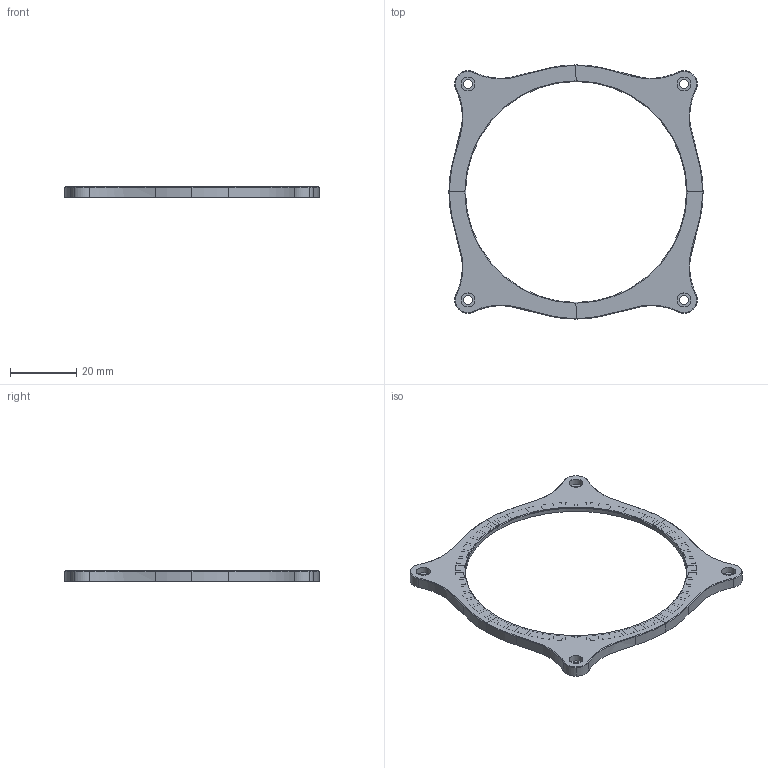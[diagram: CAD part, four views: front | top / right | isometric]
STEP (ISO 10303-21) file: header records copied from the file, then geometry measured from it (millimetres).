
FILE_DESCRIPTION(('FreeCAD Model'),'2;1');
FILE_NAME('Open CASCADE Shape Model','2023-12-12T03:15:10',(''),(''), 'Open CASCADE STEP processor 7.6','FreeCAD','Unknown');
FILE_SCHEMA(('AUTOMOTIVE_DESIGN { 1 0 10303 214 1 1 1 1 }'));
Length unit declared in the file: millimetre
Products named in the file (1): PCBHolderTop
Bounding box: 76.5 x 76.5 x 3.3 mm (x, y, z)
Volume: 3447.4 mm3; surface area: 5918.2 mm2
Topology: 1 solids, 1 shells, 378 faces, 898 edges, 585 vertices
Faces by surface type: plane 313, cylinder 29, cone 20, extrusion 8, bspline 8
Full cylindrical faces by diameter (mm): 2.7 x4, 4.2 x4, 74 x1
Entity records: 11209 total; most frequent: CARTESIAN_POINT 2422, ORIENTED_EDGE 1796, DIRECTION 1681, EDGE_CURVE 898, VECTOR 793, LINE 785, VERTEX_POINT 585, FACE_BOUND 451
